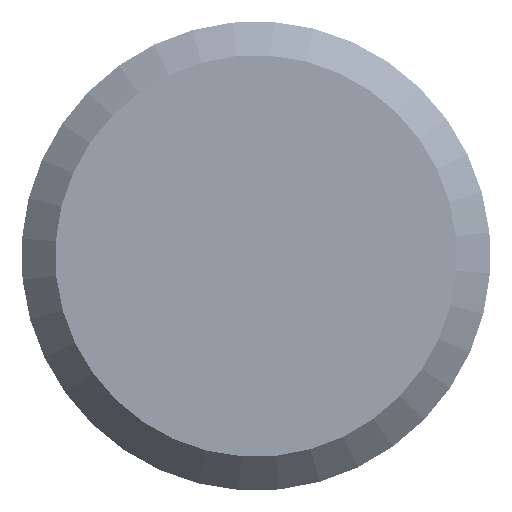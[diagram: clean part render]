
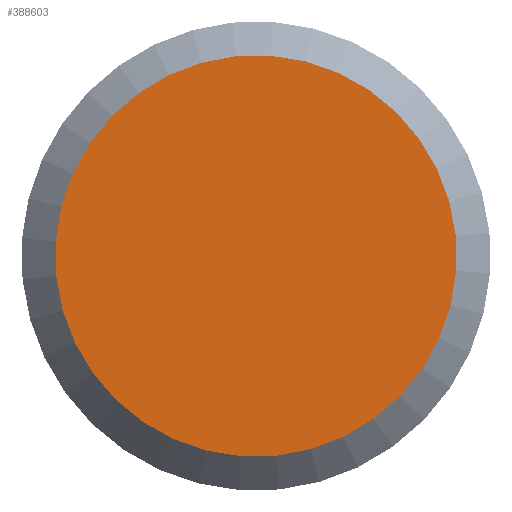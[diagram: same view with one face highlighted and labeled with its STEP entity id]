
A CAD part, front view. The second image highlights one B-rep face of the part: STEP entity #388603.
In plain terms, the highlighted planar face has unit normal (0, -1, 0).
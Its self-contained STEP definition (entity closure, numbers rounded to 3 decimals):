
#57352 = PLANE ( 'NONE',  #513648 ) ;
#59983 = DIRECTION ( 'NONE',  ( 0., 1., 0. ) ) ;
#121582 = DIRECTION ( 'NONE',  ( -1., 0., 0. ) ) ;
#146843 = EDGE_LOOP ( 'NONE', ( #778255, #418675 ) ) ;
#247604 = CARTESIAN_POINT ( 'NONE',  ( 415.41, -153.242, 0. ) ) ;
#252409 = EDGE_CURVE ( 'NONE', #753298, #636130, #618915, .T. ) ;
#263668 = CARTESIAN_POINT ( 'NONE',  ( -68.09, -153.242, 0. ) ) ;
#327534 = AXIS2_PLACEMENT_3D ( 'NONE', #443087, #59983, #507252 ) ;
#328006 = DIRECTION ( 'NONE',  ( -1., 0., 0. ) ) ;
#388603 = ADVANCED_FACE ( 'NONE', ( #548253 ), #57352, .F. ) ;
#393068 = CARTESIAN_POINT ( 'NONE',  ( 415.41, -153.242, 0. ) ) ;
#418675 = ORIENTED_EDGE ( 'NONE', *, *, #252409, .F. ) ;
#443087 = CARTESIAN_POINT ( 'NONE',  ( -68.09, -153.242, 0. ) ) ;
#447942 = CARTESIAN_POINT ( 'NONE',  ( -551.59, -153.242, 0. ) ) ;
#504689 = DIRECTION ( 'NONE',  ( 0., 1., 0. ) ) ;
#507252 = DIRECTION ( 'NONE',  ( -1., 0., 0. ) ) ;
#513648 = AXIS2_PLACEMENT_3D ( 'NONE', #247604, #504689, #121582 ) ;
#548253 = FACE_OUTER_BOUND ( 'NONE', #146843, .T. ) ;
#548853 = CIRCLE ( 'NONE', #750806, 483.5 ) ;
#582383 = EDGE_CURVE ( 'NONE', #636130, #753298, #548853, .T. ) ;
#618915 = CIRCLE ( 'NONE', #327534, 483.5 ) ;
#636130 = VERTEX_POINT ( 'NONE', #447942 ) ;
#710711 = DIRECTION ( 'NONE',  ( 0., 1., 0. ) ) ;
#750806 = AXIS2_PLACEMENT_3D ( 'NONE', #263668, #710711, #328006 ) ;
#753298 = VERTEX_POINT ( 'NONE', #393068 ) ;
#778255 = ORIENTED_EDGE ( 'NONE', *, *, #582383, .F. ) ;
